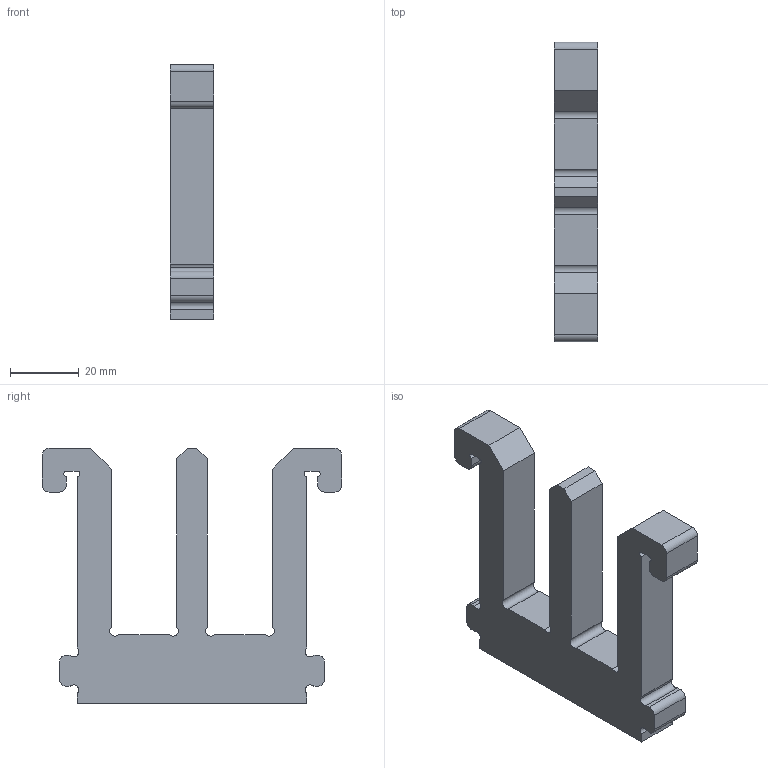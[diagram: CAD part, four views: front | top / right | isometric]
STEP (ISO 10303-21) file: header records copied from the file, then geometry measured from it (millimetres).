
FILE_DESCRIPTION(('HOOPS Exchange Step'),'2;1');
FILE_NAME('/home/e/Projects/CAD/SCS_XX/laptopStand_26/release/P3-A-00.step','2026-10-14T12:40:32-07:00',('e'),('Unknown organisation'),'HOOPS Exchange 2025.8','HOOPS Exchange','Unknown authorisation');
FILE_SCHEMA( ('AP203_CONFIGURATION_CONTROLLED_3D_DESIGN_OF_MECHANICAL_PARTS_AND_ASSEMBLIES_MIM_LF') );
Length unit declared in the file: millimetre
Products named in the file (2): 0; root
Assembly tree (1 placements, depth 2):
  root
    0
Bounding box: 12.7 x 86.84 x 74 mm (x, y, z)
Volume: 39530.6 mm3; surface area: 13470.5 mm2
Topology: 1 solids, 1 shells, 58 faces, 168 edges, 112 vertices
Faces by surface type: plane 34, cylinder 24
Entity records: 1956 total; most frequent: CARTESIAN_POINT 340, DIRECTION 336, ORIENTED_EDGE 336, EDGE_CURVE 168, VECTOR 120, LINE 120, VERTEX_POINT 112, AXIS2_PLACEMENT_3D 108
